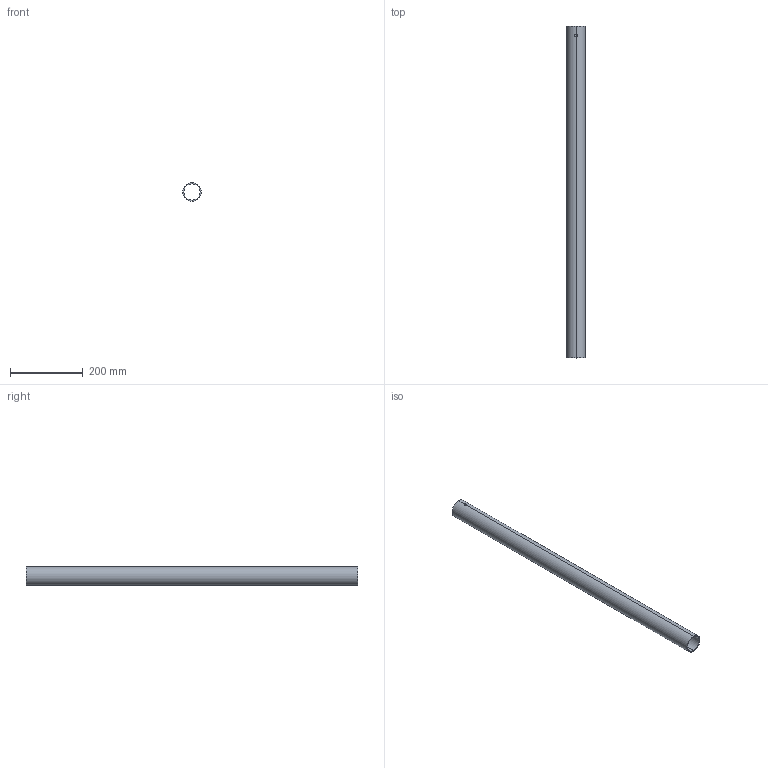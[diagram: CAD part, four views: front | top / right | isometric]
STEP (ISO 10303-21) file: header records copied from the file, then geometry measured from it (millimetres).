
FILE_DESCRIPTION (( 'STEP AP203' ), '1' );
FILE_NAME ('10-0503-00 REV 1, POLE, 2in OD x 3 FT.STEP', '2018-01-24T21:42:22', ( '' ), ( '' ), 'SwSTEP 2.0', 'SolidWorks 2012', '' );
FILE_SCHEMA (( 'CONFIG_CONTROL_DESIGN' ));
Length unit declared in the file: inch
Products named in the file (1): 10-0503-00 REV 1, POLE, 2in OD x 3 FT
Bounding box: 50.8 x 914.4 x 50.8 mm (x, y, z)
Volume: 417997.4 mm3; surface area: 275257.5 mm2
Topology: 1 solids, 1 shells, 8 faces, 24 edges, 16 vertices
Faces by surface type: cylinder 6, plane 2
Entity records: 483 total; most frequent: CARTESIAN_POINT 185, ORIENTED_EDGE 48, DIRECTION 42, EDGE_CURVE 24, AXIS2_PLACEMENT_3D 17, VERTEX_POINT 16, EDGE_LOOP 10, FACE_OUTER_BOUND 8
